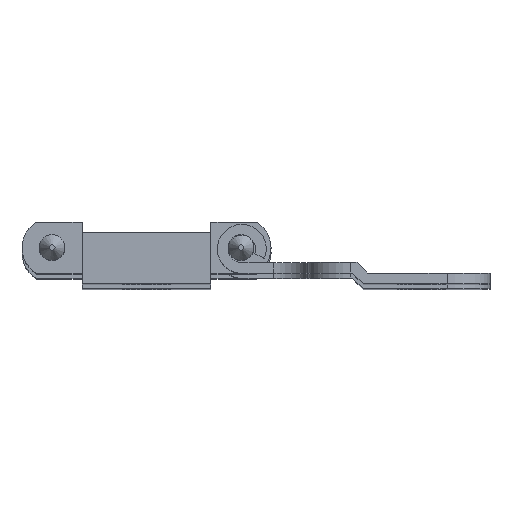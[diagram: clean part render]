
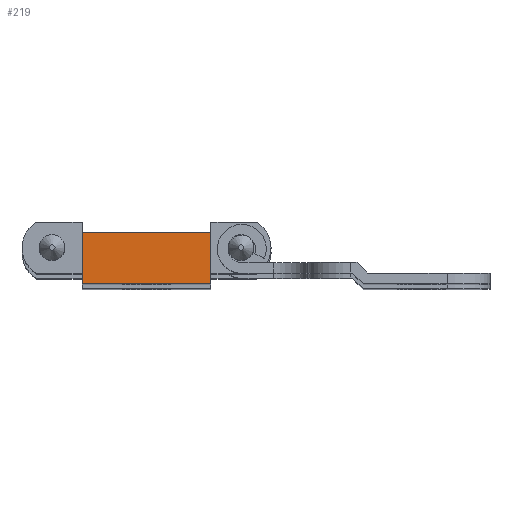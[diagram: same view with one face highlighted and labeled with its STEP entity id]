
A CAD part, top view. The second image highlights one B-rep face of the part: STEP entity #219.
In plain terms, the highlighted planar face has unit normal (0, 0, 1).
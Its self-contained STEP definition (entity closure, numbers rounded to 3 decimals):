
#219 = ADVANCED_FACE( '', ( #446 ), #447, .T. );
#446 = FACE_OUTER_BOUND( '', #695, .T. );
#447 = PLANE( '', #696 );
#695 = EDGE_LOOP( '', ( #1097, #1098, #1099, #1100 ) );
#696 = AXIS2_PLACEMENT_3D( '', #1101, #1102, #1103 );
#1097 = ORIENTED_EDGE( '', *, *, #1549, .F. );
#1098 = ORIENTED_EDGE( '', *, *, #1606, .F. );
#1099 = ORIENTED_EDGE( '', *, *, #1607, .T. );
#1100 = ORIENTED_EDGE( '', *, *, #1608, .T. );
#1101 = CARTESIAN_POINT( '', ( -7.5, -6., 41. ) );
#1102 = DIRECTION( '', ( 0., 0., 1. ) );
#1103 = DIRECTION( '', ( 1., 0., 0. ) );
#1549 = EDGE_CURVE( '', #1859, #1846, #1861, .T. );
#1606 = EDGE_CURVE( '', #1946, #1859, #1947, .T. );
#1607 = EDGE_CURVE( '', #1946, #1948, #1949, .T. );
#1608 = EDGE_CURVE( '', #1948, #1846, #1950, .T. );
#1846 = VERTEX_POINT( '', #2254 );
#1859 = VERTEX_POINT( '', #2273 );
#1861 = LINE( '', #2276, #2277 );
#1946 = VERTEX_POINT( '', #2392 );
#1947 = LINE( '', #2393, #2394 );
#1948 = VERTEX_POINT( '', #2395 );
#1949 = LINE( '', #2396, #2397 );
#1950 = LINE( '', #2398, #2399 );
#2254 = CARTESIAN_POINT( '', ( 7.5, 0., 41. ) );
#2273 = CARTESIAN_POINT( '', ( -7.5, 0., 41. ) );
#2276 = CARTESIAN_POINT( '', ( -7.5, 0., 41. ) );
#2277 = VECTOR( '', #2685, 1000. );
#2392 = CARTESIAN_POINT( '', ( -7.5, -6., 41. ) );
#2393 = CARTESIAN_POINT( '', ( -7.5, -6., 41. ) );
#2394 = VECTOR( '', #2752, 1000. );
#2395 = CARTESIAN_POINT( '', ( 7.5, -6., 41. ) );
#2396 = CARTESIAN_POINT( '', ( -7.5, -6., 41. ) );
#2397 = VECTOR( '', #2753, 1000. );
#2398 = CARTESIAN_POINT( '', ( 7.5, -6., 41. ) );
#2399 = VECTOR( '', #2754, 1000. );
#2685 = DIRECTION( '', ( 1., 0., 0. ) );
#2752 = DIRECTION( '', ( 0., 1., 0. ) );
#2753 = DIRECTION( '', ( 1., 0., 0. ) );
#2754 = DIRECTION( '', ( 0., 1., 0. ) );
